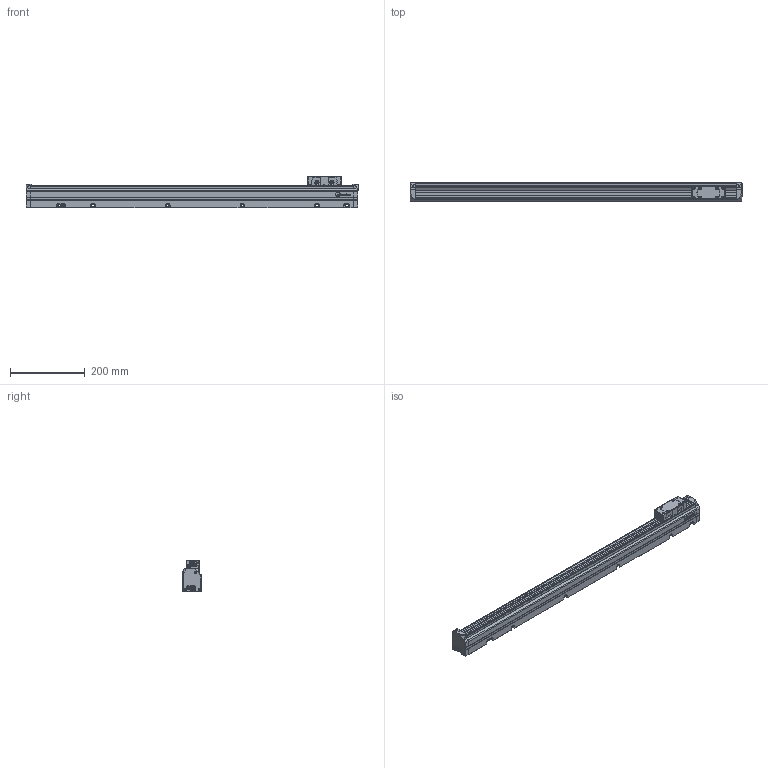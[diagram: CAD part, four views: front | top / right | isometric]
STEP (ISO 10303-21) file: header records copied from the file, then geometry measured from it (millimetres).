
FILE_DESCRIPTION(('Creo Elements/Direct Modeling STEP Export'),'2;1');
FILE_NAME('REGLA_L3_640_T.stp','2020-12-02T10:22:33',(''),(''),'Creo Elements/Direct Modeling STEP processor for AP214 (Solid Model)','Creo Elements/Direct Modeling 19.0G 27-Nov-2017 (C) Parametric Technology GmbH','');
FILE_SCHEMA(('AUTOMOTIVE_DESIGN { 1 0 10303 214 1 1 1 1 }'));
Length unit declared in the file: millimetre
Products named in the file (3): REGLA_L3_640; CABEZA_L3_T; REGLA_L3_640_T
Assembly tree (2 placements, depth 2):
  REGLA_L3_640_T
    CABEZA_L3_T
    REGLA_L3_640
Bounding box: 890 x 50 x 85 mm (x, y, z)
Volume: 2382059.9 mm3; surface area: 251947.9 mm2
Topology: 2 solids, 2 shells, 1431 faces, 3807 edges, 2454 vertices
Faces by surface type: plane 703, cylinder 442, cone 166, bspline 63, torus 51, extrusion 6
Entity records: 63760 total; most frequent: CARTESIAN_POINT 23422, ORIENTED_EDGE 7594, DIRECTION 6668, EDGE_CURVE 3797, VERTEX_POINT 2454, AXIS2_PLACEMENT_3D 2240, VECTOR 2188, LINE 2182
